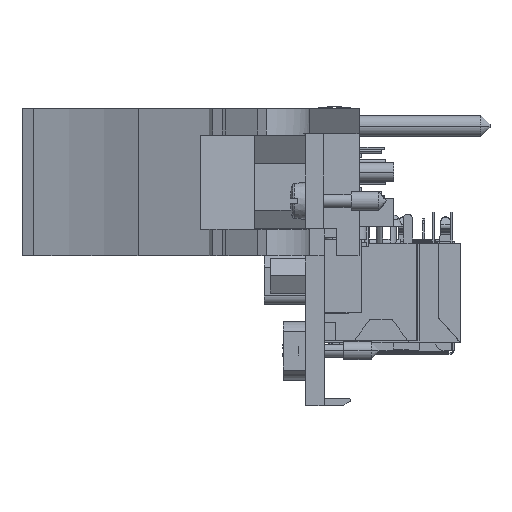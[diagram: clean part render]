
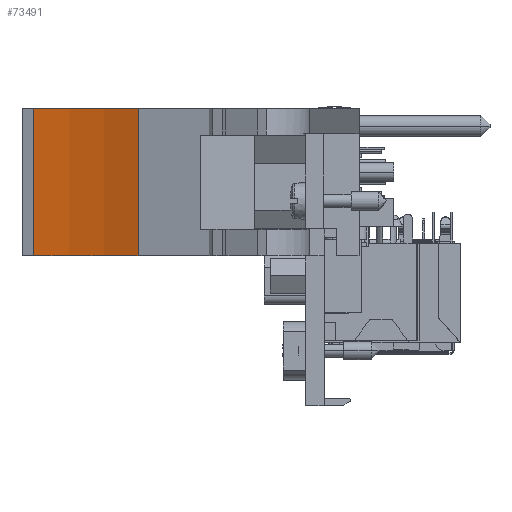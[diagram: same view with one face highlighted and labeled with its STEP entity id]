
A CAD part, front view. The second image highlights one B-rep face of the part: STEP entity #73491.
In plain terms, the highlighted cylindrical face has radius 51.46 mm (diameter 102.919 mm), a partial arc.
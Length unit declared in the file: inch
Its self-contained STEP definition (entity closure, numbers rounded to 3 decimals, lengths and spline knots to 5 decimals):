
#72132=CARTESIAN_POINT('',(-1.97633,-5.95079,-0.089));
#72133=DIRECTION('',(0.,0.,1.));
#72134=DIRECTION('',(0.435,0.9,0.));
#72135=AXIS2_PLACEMENT_3D('',#72132,#72133,#72134);
#72454=CARTESIAN_POINT('',(-1.97633,-5.95079,0.699));
#72455=DIRECTION('',(0.,0.,1.));
#72456=DIRECTION('',(0.435,0.9,0.));
#72457=AXIS2_PLACEMENT_3D('',#72454,#72455,#72456);
#72553=DIRECTION('',(0.,0.,1.));
#72554=VECTOR('',#72553,0.788);
#72555=CARTESIAN_POINT('',(-1.09503,-4.12655,-0.089));
#72556=LINE('',#72555,#72554);
#72569=DIRECTION('',(0.,0.,1.));
#72570=VECTOR('',#72569,0.788);
#72571=CARTESIAN_POINT('',(-1.653,-3.95079,-0.089));
#72572=LINE('',#72571,#72570);
#72882=CARTESIAN_POINT('',(-1.09503,-4.12655,-0.089));
#72883=CARTESIAN_POINT('',(-1.653,-3.95079,-0.089));
#72884=VERTEX_POINT('',#72882);
#72885=VERTEX_POINT('',#72883);
#72886=CARTESIAN_POINT('',(-1.09503,-4.12655,0.699));
#72887=CARTESIAN_POINT('',(-1.653,-3.95079,0.699));
#72888=VERTEX_POINT('',#72886);
#72889=VERTEX_POINT('',#72887);
#73480=CARTESIAN_POINT('',(-1.97633,-5.95079,0.699));
#73481=DIRECTION('',(0.,0.,1.));
#73482=DIRECTION('',(0.,1.,0.));
#73483=AXIS2_PLACEMENT_3D('',#73480,#73481,#73482);
#73484=CYLINDRICAL_SURFACE('',#73483,2.02597);
#73485=ORIENTED_EDGE('',*,*,#72985,.T.);
#73486=ORIENTED_EDGE('',*,*,#73471,.T.);
#73487=ORIENTED_EDGE('',*,*,#73310,.F.);
#73488=ORIENTED_EDGE('',*,*,#73452,.F.);
#73489=EDGE_LOOP('',(#73485,#73486,#73487,#73488));
#73490=FACE_OUTER_BOUND('',#73489,.F.);
#73491=ADVANCED_FACE('',(#73490),#73484,.F.);
#72136=CIRCLE('',#72135,2.02597);
#72458=CIRCLE('',#72457,2.02597);
#72985=EDGE_CURVE('',#72884,#72885,#72136,.T.);
#73310=EDGE_CURVE('',#72888,#72889,#72458,.T.);
#73452=EDGE_CURVE('',#72884,#72888,#72556,.T.);
#73471=EDGE_CURVE('',#72885,#72889,#72572,.T.);
